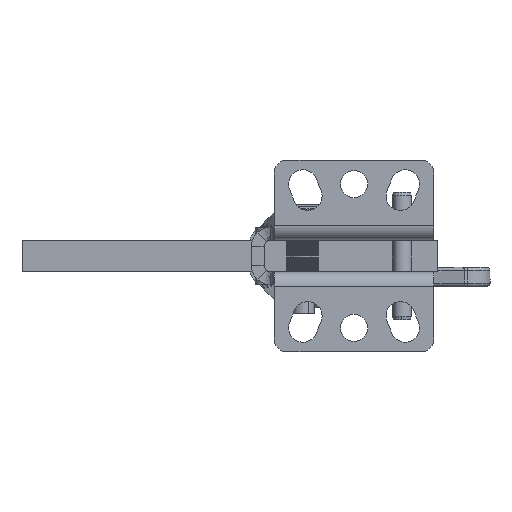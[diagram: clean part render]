
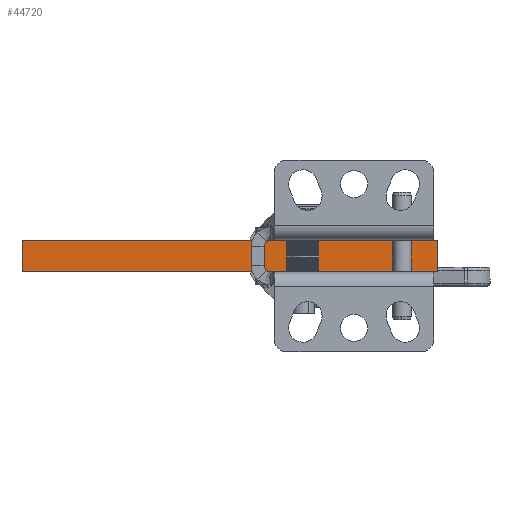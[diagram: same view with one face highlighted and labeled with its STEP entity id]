
A CAD part, front view. The second image highlights one B-rep face of the part: STEP entity #44720.
In plain terms, the highlighted planar face has unit normal (0, -1, 0).
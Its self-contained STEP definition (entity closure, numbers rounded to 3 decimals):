
#511 = VERTEX_POINT ( 'NONE', #4315 ) ;
#3045 = LINE ( 'NONE', #17630, #3656 ) ;
#3185 = ORIENTED_EDGE ( 'NONE', *, *, #15808, .F. ) ;
#3656 = VECTOR ( 'NONE', #32416, 1000. ) ;
#4292 = CARTESIAN_POINT ( 'NONE',  ( 130., 0., 10. ) ) ;
#4315 = CARTESIAN_POINT ( 'NONE',  ( 130., 0., 0. ) ) ;
#5954 = DIRECTION ( 'NONE',  ( 0., 1., 0. ) ) ;
#7727 = CARTESIAN_POINT ( 'NONE',  ( 0., 0., 10. ) ) ;
#8154 = ORIENTED_EDGE ( 'NONE', *, *, #11305, .T. ) ;
#8636 = VECTOR ( 'NONE', #44777, 1000. ) ;
#8827 = EDGE_LOOP ( 'NONE', ( #8154, #3185, #16776, #10469 ) ) ;
#9852 = VECTOR ( 'NONE', #30429, 1000. ) ;
#10469 = ORIENTED_EDGE ( 'NONE', *, *, #40705, .T. ) ;
#11305 = EDGE_CURVE ( 'NONE', #15233, #511, #15870, .T. ) ;
#11478 = LINE ( 'NONE', #4292, #15407 ) ;
#11800 = LINE ( 'NONE', #7727, #8636 ) ;
#14452 = VERTEX_POINT ( 'NONE', #39307 ) ;
#15233 = VERTEX_POINT ( 'NONE', #23880 ) ;
#15407 = VECTOR ( 'NONE', #30108, 1000. ) ;
#15808 = EDGE_CURVE ( 'NONE', #14452, #511, #11478, .T. ) ;
#15870 = LINE ( 'NONE', #22579, #9852 ) ;
#16776 = ORIENTED_EDGE ( 'NONE', *, *, #36175, .F. ) ;
#17630 = CARTESIAN_POINT ( 'NONE',  ( 0., 0., 10. ) ) ;
#20014 = AXIS2_PLACEMENT_3D ( 'NONE', #35366, #5954, #35119 ) ;
#22579 = CARTESIAN_POINT ( 'NONE',  ( 0., 0., 0. ) ) ;
#23880 = CARTESIAN_POINT ( 'NONE',  ( 0., 0., 0. ) ) ;
#30108 = DIRECTION ( 'NONE',  ( 0., 0., -1. ) ) ;
#30429 = DIRECTION ( 'NONE',  ( 1., 0., 0. ) ) ;
#32416 = DIRECTION ( 'NONE',  ( 1., 0., 0. ) ) ;
#32479 = FACE_OUTER_BOUND ( 'NONE', #8827, .T. ) ;
#35119 = DIRECTION ( 'NONE',  ( 0., 0., -1. ) ) ;
#35366 = CARTESIAN_POINT ( 'NONE',  ( 0., 0., 10. ) ) ;
#36175 = EDGE_CURVE ( 'NONE', #43052, #14452, #3045, .T. ) ;
#39307 = CARTESIAN_POINT ( 'NONE',  ( 130., 0., 10. ) ) ;
#40705 = EDGE_CURVE ( 'NONE', #43052, #15233, #11800, .T. ) ;
#42646 = CARTESIAN_POINT ( 'NONE',  ( 0., 0., 10. ) ) ;
#43052 = VERTEX_POINT ( 'NONE', #42646 ) ;
#44720 = ADVANCED_FACE ( 'NONE', ( #32479 ), #47073, .F. ) ;
#44777 = DIRECTION ( 'NONE',  ( 0., 0., -1. ) ) ;
#47073 = PLANE ( 'NONE',  #20014 ) ;
